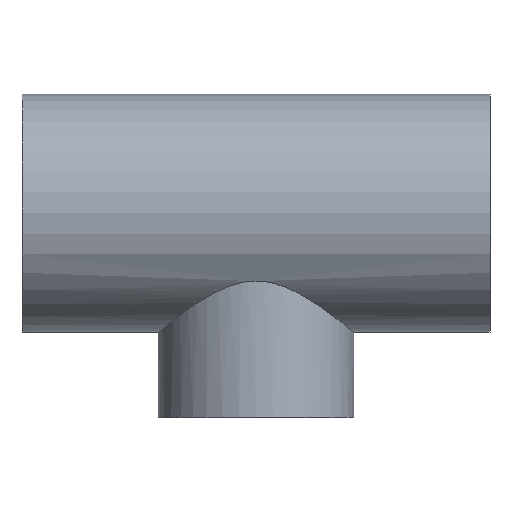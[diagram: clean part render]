
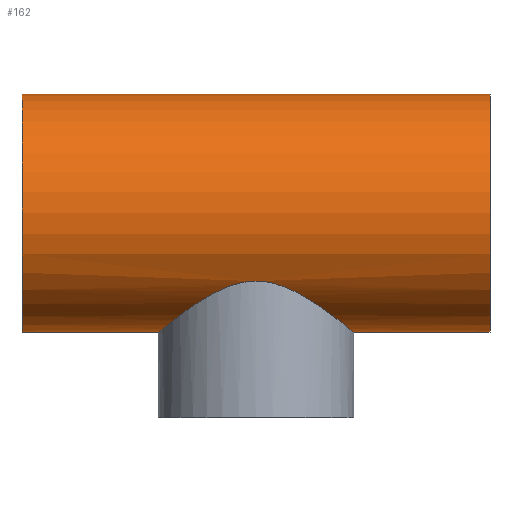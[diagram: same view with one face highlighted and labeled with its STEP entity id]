
A CAD part, top view. The second image highlights one B-rep face of the part: STEP entity #162.
In plain terms, the highlighted cylindrical face has radius 14 mm (diameter 28 mm), a full revolution.
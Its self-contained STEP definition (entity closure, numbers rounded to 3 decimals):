
#16=B_SPLINE_CURVE_WITH_KNOTS('',3,(#320,#321,#322,#323,#324,#325,#326,
#327,#328,#329,#330,#331,#332,#333,#334,#335,#336,#337,#338,#339,#340,#341,
#342,#343,#344,#345,#346,#347,#348,#349,#350,#351,#352,#353,#354,#355,#356,
#357,#358,#359,#360,#361,#362,#363,#364,#365,#366,#367,#368,#369),
 .UNSPECIFIED.,.T.,.F.,(4,2,2,2,2,2,2,2,2,2,2,2,2,2,2,2,2,2,2,2,2,2,2,2,
4),(0.,0.238,0.476,0.952,1.411,
1.64,1.87,2.099,2.328,2.787,
3.263,3.501,3.739,3.977,4.215,
4.691,5.15,5.379,5.609,5.838,
6.067,6.526,7.002,7.24,7.478),
 .UNSPECIFIED.);
#32=FACE_BOUND('',#69,.T.);
#33=FACE_BOUND('',#70,.T.);
#46=FACE_OUTER_BOUND('',#68,.T.);
#68=EDGE_LOOP('',(#136));
#69=EDGE_LOOP('',(#137));
#70=EDGE_LOOP('',(#138));
#88=CIRCLE('',#187,14.);
#89=CIRCLE('',#188,14.);
#101=VERTEX_POINT('',#317);
#102=VERTEX_POINT('',#319);
#103=VERTEX_POINT('',#370);
#115=EDGE_CURVE('',#101,#101,#88,.T.);
#116=EDGE_CURVE('',#102,#102,#16,.T.);
#117=EDGE_CURVE('',#103,#103,#89,.T.);
#136=ORIENTED_EDGE('',*,*,#115,.F.);
#137=ORIENTED_EDGE('',*,*,#116,.T.);
#138=ORIENTED_EDGE('',*,*,#117,.F.);
#152=CYLINDRICAL_SURFACE('',#186,14.);
#162=ADVANCED_FACE('',(#46,#32,#33),#152,.T.);
#186=AXIS2_PLACEMENT_3D('',#316,#230,#231);
#187=AXIS2_PLACEMENT_3D('',#318,#232,#233);
#188=AXIS2_PLACEMENT_3D('',#371,#234,#235);
#230=DIRECTION('center_axis',(1.,0.,0.));
#231=DIRECTION('ref_axis',(0.,-1.,0.));
#232=DIRECTION('center_axis',(-1.,0.,0.));
#233=DIRECTION('ref_axis',(0.,-1.,0.));
#234=DIRECTION('center_axis',(1.,0.,0.));
#235=DIRECTION('ref_axis',(0.,-1.,0.));
#316=CARTESIAN_POINT('Origin',(0.,0.,0.));
#317=CARTESIAN_POINT('',(-27.5,14.,0.));
#318=CARTESIAN_POINT('Origin',(-27.5,0.,0.));
#319=CARTESIAN_POINT('',(0.,-7.984,11.5));
#320=CARTESIAN_POINT('Ctrl Pts',(0.,-7.984,
11.5));
#321=CARTESIAN_POINT('Ctrl Pts',(0.794,-7.984,11.5));
#322=CARTESIAN_POINT('Ctrl Pts',(1.575,-8.106,11.418));
#323=CARTESIAN_POINT('Ctrl Pts',(3.084,-8.529,11.106));
#324=CARTESIAN_POINT('Ctrl Pts',(3.812,-8.827,10.876));
#325=CARTESIAN_POINT('Ctrl Pts',(5.888,-9.847,9.992));
#326=CARTESIAN_POINT('Ctrl Pts',(7.13,-10.681,9.134));
#327=CARTESIAN_POINT('Ctrl Pts',(9.097,-12.085,7.167));
#328=CARTESIAN_POINT('Ctrl Pts',(9.974,-12.771,5.925));
#329=CARTESIAN_POINT('Ctrl Pts',(10.877,-13.492,3.812));
#330=CARTESIAN_POINT('Ctrl Pts',(11.111,-13.682,3.066));
#331=CARTESIAN_POINT('Ctrl Pts',(11.423,-13.936,1.542));
#332=CARTESIAN_POINT('Ctrl Pts',(11.5,-14.,0.764));
#333=CARTESIAN_POINT('Ctrl Pts',(11.5,-14.,-0.764));
#334=CARTESIAN_POINT('Ctrl Pts',(11.423,-13.936,-1.542));
#335=CARTESIAN_POINT('Ctrl Pts',(11.111,-13.682,-3.066));
#336=CARTESIAN_POINT('Ctrl Pts',(10.877,-13.492,-3.812));
#337=CARTESIAN_POINT('Ctrl Pts',(9.974,-12.771,-5.925));
#338=CARTESIAN_POINT('Ctrl Pts',(9.097,-12.085,-7.167));
#339=CARTESIAN_POINT('Ctrl Pts',(7.13,-10.681,-9.134));
#340=CARTESIAN_POINT('Ctrl Pts',(5.888,-9.847,-9.992));
#341=CARTESIAN_POINT('Ctrl Pts',(3.812,-8.827,-10.876));
#342=CARTESIAN_POINT('Ctrl Pts',(3.084,-8.529,-11.106));
#343=CARTESIAN_POINT('Ctrl Pts',(1.575,-8.106,-11.418));
#344=CARTESIAN_POINT('Ctrl Pts',(0.794,-7.984,-11.5));
#345=CARTESIAN_POINT('Ctrl Pts',(-0.794,-7.984,-11.5));
#346=CARTESIAN_POINT('Ctrl Pts',(-1.575,-8.106,-11.418));
#347=CARTESIAN_POINT('Ctrl Pts',(-3.084,-8.529,-11.106));
#348=CARTESIAN_POINT('Ctrl Pts',(-3.812,-8.827,-10.876));
#349=CARTESIAN_POINT('Ctrl Pts',(-5.888,-9.847,-9.992));
#350=CARTESIAN_POINT('Ctrl Pts',(-7.13,-10.681,-9.134));
#351=CARTESIAN_POINT('Ctrl Pts',(-9.097,-12.085,-7.167));
#352=CARTESIAN_POINT('Ctrl Pts',(-9.974,-12.771,-5.925));
#353=CARTESIAN_POINT('Ctrl Pts',(-10.877,-13.492,-3.812));
#354=CARTESIAN_POINT('Ctrl Pts',(-11.111,-13.682,-3.066));
#355=CARTESIAN_POINT('Ctrl Pts',(-11.423,-13.936,-1.542));
#356=CARTESIAN_POINT('Ctrl Pts',(-11.5,-14.,-0.764));
#357=CARTESIAN_POINT('Ctrl Pts',(-11.5,-14.,0.764));
#358=CARTESIAN_POINT('Ctrl Pts',(-11.423,-13.936,1.542));
#359=CARTESIAN_POINT('Ctrl Pts',(-11.111,-13.682,3.066));
#360=CARTESIAN_POINT('Ctrl Pts',(-10.877,-13.492,3.812));
#361=CARTESIAN_POINT('Ctrl Pts',(-9.974,-12.771,5.925));
#362=CARTESIAN_POINT('Ctrl Pts',(-9.097,-12.085,7.167));
#363=CARTESIAN_POINT('Ctrl Pts',(-7.13,-10.681,9.134));
#364=CARTESIAN_POINT('Ctrl Pts',(-5.888,-9.847,9.992));
#365=CARTESIAN_POINT('Ctrl Pts',(-3.812,-8.827,10.876));
#366=CARTESIAN_POINT('Ctrl Pts',(-3.084,-8.529,11.106));
#367=CARTESIAN_POINT('Ctrl Pts',(-1.575,-8.106,11.418));
#368=CARTESIAN_POINT('Ctrl Pts',(-0.794,-7.984,11.5));
#369=CARTESIAN_POINT('Ctrl Pts',(0.,-7.984,
11.5));
#370=CARTESIAN_POINT('',(27.5,14.,0.));
#371=CARTESIAN_POINT('Origin',(27.5,0.,0.));
